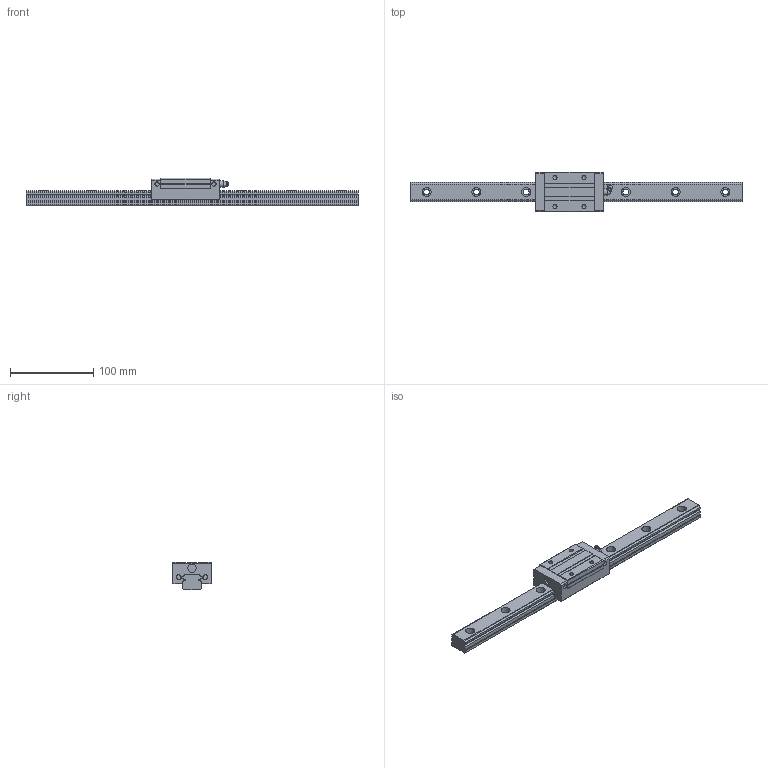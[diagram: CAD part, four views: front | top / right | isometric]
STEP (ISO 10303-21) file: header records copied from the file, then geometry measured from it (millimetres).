
FILE_DESCRIPTION((''),'2;1');
FILE_NAME('D:\製品 (図面)\カタログ用3D\リニアガイド関連\STEP形式\LGSR\LGSR25.stp','2010-06-02T16:01:45',('Tsuchiya'),(''),'Autodesk Inventor 10','Autodesk Inventor 10','');
FILE_SCHEMA(('AUTOMOTIVE_DESIGN { 1 0 10303 214 1 1 1 1 }'));
Length unit declared in the file: millimetre
Products named in the file (3): LGSR25; LGSR251; LGSR252
Assembly tree (2 placements, depth 2):
  LGSR25
    LGSR251
    LGSR252
Bounding box: 400 x 48 x 33 mm (x, y, z)
Volume: 226053.5 mm3; surface area: 57590.5 mm2
Topology: 2 solids, 2 shells, 172 faces, 437 edges, 288 vertices
Faces by surface type: plane 93, bspline 39, cylinder 33, cone 4, sphere 3
Full cylindrical faces by diameter (mm): 4.917 x2, 5.2 x2, 5.5 x2, 6 x2, 7 x1, 7.7 x1, 10 x1
Entity records: 5462 total; most frequent: CARTESIAN_POINT 1489, DIRECTION 772, ORIENTED_EDGE 760, EDGE_CURVE 380, VERTEX_POINT 278, AXIS2_PLACEMENT_3D 258, VECTOR 256, LINE 256
